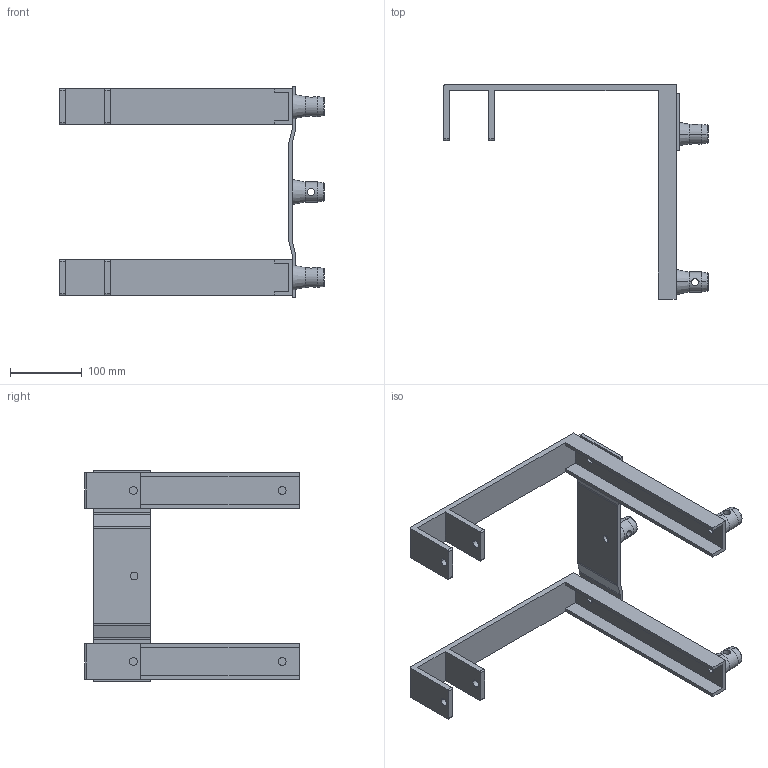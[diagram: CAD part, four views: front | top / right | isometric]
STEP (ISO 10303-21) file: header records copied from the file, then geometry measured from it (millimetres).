
FILE_DESCRIPTION (( 'STEP AP203' ), '1' );
FILE_NAME ('L290CX.STEP', '2009-10-23T14:51:23', ( 'CEDIA' ), ( 'CEDIA INDUSTRIE' ), 'SwSTEP 2.0', 'SolidWorks 2009', '' );
FILE_SCHEMA (( 'CONFIG_CONTROL_DESIGN' ));
Length unit declared in the file: millimetre
Products named in the file (1): L290CX
Bounding box: 370 x 300 x 295 mm (x, y, z)
Volume: 830934.2 mm3; surface area: 269622.6 mm2
Topology: 1 solids, 1 shells, 132 faces, 344 edges, 216 vertices
Faces by surface type: plane 60, cylinder 54, cone 12, torus 6
Entity records: 4579 total; most frequent: CARTESIAN_POINT 1161, DIRECTION 712, ORIENTED_EDGE 688, EDGE_CURVE 344, AXIS2_PLACEMENT_3D 247, VECTOR 218, LINE 218, VERTEX_POINT 216
